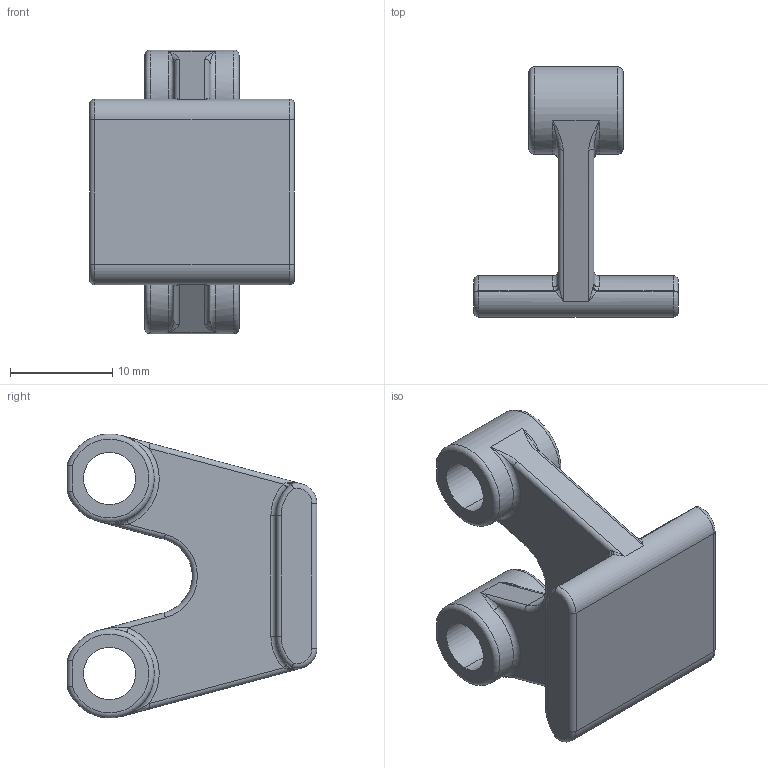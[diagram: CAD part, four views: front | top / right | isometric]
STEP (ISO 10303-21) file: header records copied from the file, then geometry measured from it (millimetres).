
FILE_DESCRIPTION((''),'2;1');
FILE_NAME('P069','2012-11-05T',('jas'),(''),'PRO/ENGINEER BY PARAMETRIC TECHNOLOGY CORPORATION, 2012230','PRO/ENGINEER BY PARAMETRIC TECHNOLOGY CORPORATION, 2012230','');
FILE_SCHEMA(('CONFIG_CONTROL_DESIGN'));
Length unit declared in the file: millimetre
Products named in the file (1): P069
Bounding box: 20 x 24.4 x 27.73 mm (x, y, z)
Volume: 3000.5 mm3; surface area: 2393.3 mm2
Topology: 1 solids, 1 shells, 114 faces, 246 edges, 136 vertices
Faces by surface type: cylinder 39, bspline 36, torus 22, plane 17
Entity records: 4985 total; most frequent: CARTESIAN_POINT 2701, ORIENTED_EDGE 492, DIRECTION 434, EDGE_CURVE 246, AXIS2_PLACEMENT_3D 182, VERTEX_POINT 136, EDGE_LOOP 120, FACE_OUTER_BOUND 114
